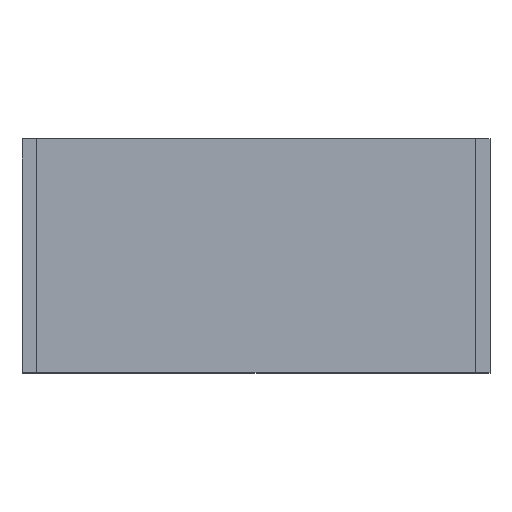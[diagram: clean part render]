
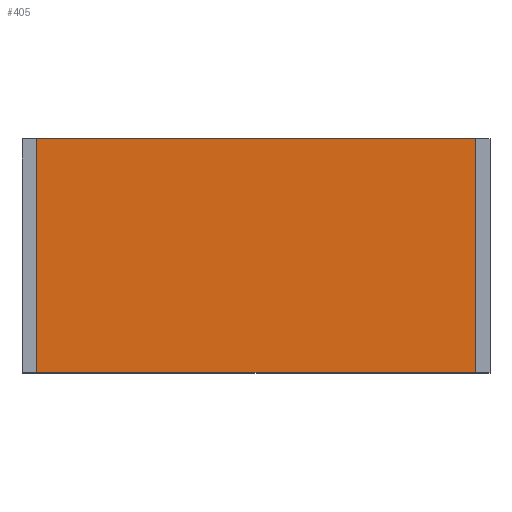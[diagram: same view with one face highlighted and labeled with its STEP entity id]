
A CAD part, top view. The second image highlights one B-rep face of the part: STEP entity #405.
In plain terms, the highlighted planar face has unit normal (0, 0, 1).
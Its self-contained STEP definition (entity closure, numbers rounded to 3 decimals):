
#405=ADVANCED_FACE('',(#830),#832,.T.);
#830=FACE_BOUND('',#831,.T.);
#831=EDGE_LOOP('',(#1138,#1139,#1140,#1141));
#832=PLANE('',#833);
#833=AXIS2_PLACEMENT_3D('',#834,#835,#836);
#834=CARTESIAN_POINT('',(-1.501,-0.8,0.7));
#835=DIRECTION('',(0.,0.,1.));
#836=DIRECTION('',(1.,0.,0.));
#1138=ORIENTED_EDGE('',*,*,#1321,.T.);
#1139=ORIENTED_EDGE('',*,*,#1327,.T.);
#1140=ORIENTED_EDGE('',*,*,#1324,.F.);
#1141=ORIENTED_EDGE('',*,*,#1326,.F.);
#1321=EDGE_CURVE('',#1509,#1507,#1510,.T.);
#1324=EDGE_CURVE('',#1512,#1514,#1515,.T.);
#1326=EDGE_CURVE('',#1509,#1512,#1517,.T.);
#1327=EDGE_CURVE('',#1507,#1514,#1518,.T.);
#1507=VERTEX_POINT('',#1884);
#1509=VERTEX_POINT('',#1888);
#1510=LINE('',#1889,#1890);
#1512=VERTEX_POINT('',#1895);
#1514=VERTEX_POINT('',#1899);
#1515=LINE('',#1900,#1901);
#1517=LINE('',#1906,#1907);
#1518=LINE('',#1909,#1910);
#1884=CARTESIAN_POINT('',(1.501,-0.8,0.7));
#1888=CARTESIAN_POINT('',(-1.501,-0.8,0.7));
#1889=CARTESIAN_POINT('',(-1.501,-0.8,0.7));
#1890=VECTOR('',#1891,1.);
#1891=DIRECTION('',(1.,0.,0.));
#1895=CARTESIAN_POINT('',(-1.501,0.8,0.7));
#1899=CARTESIAN_POINT('',(1.501,0.8,0.7));
#1900=CARTESIAN_POINT('',(-1.501,0.8,0.7));
#1901=VECTOR('',#1902,1.);
#1902=DIRECTION('',(1.,0.,0.));
#1906=CARTESIAN_POINT('',(-1.501,-0.8,0.7));
#1907=VECTOR('',#1908,1.);
#1908=DIRECTION('',(0.,1.,0.));
#1909=CARTESIAN_POINT('',(1.501,-0.8,0.7));
#1910=VECTOR('',#1911,1.);
#1911=DIRECTION('',(0.,1.,0.));
